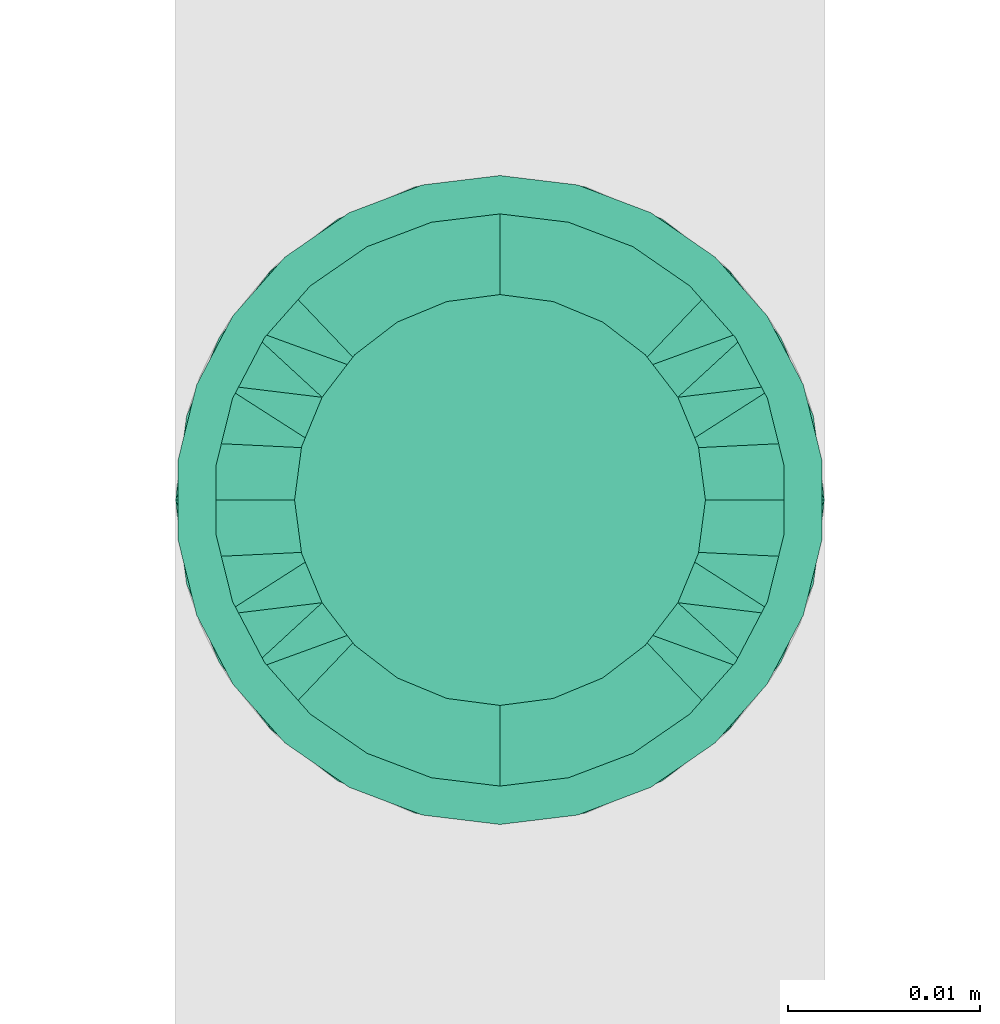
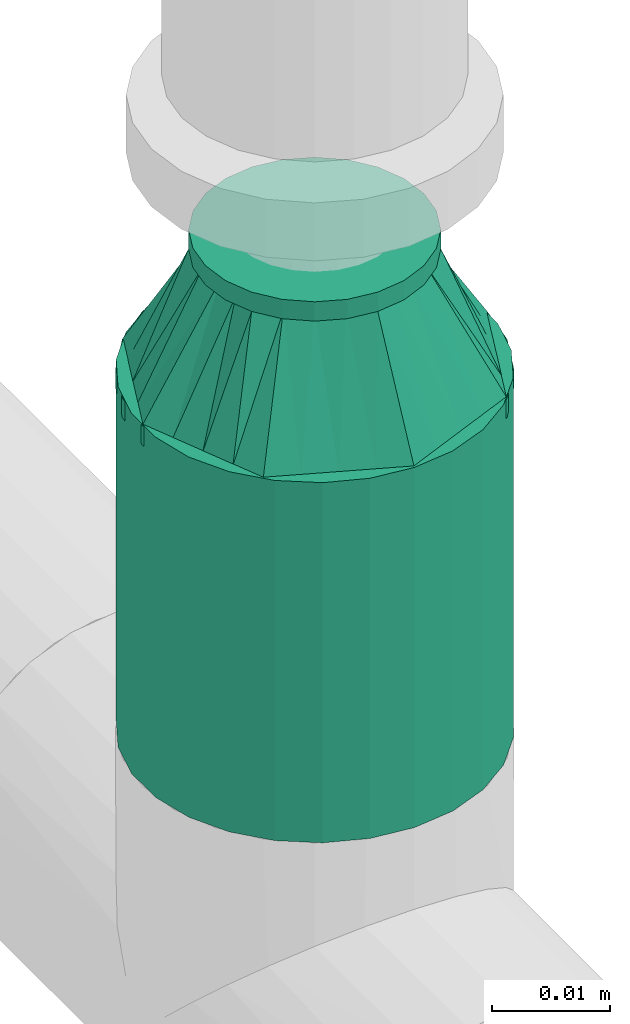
# One storey, part 14 of 31: 1 flow fitting, 1 flow segment.
"""IFC2X3 building model written with IfcOpenShell, lengths in millimetres."""

from ifc_helpers import new_model, entity, si_unit, converted_unit, derived_unit, direction, frame, origin_with_axes, origin_2d_with_axis, place, context, subcontext, project, spatial, hollow_circle, extrude, open_shell, surface_model, source, transform, mapped, type_object, element, save


model = new_model("IFC2X3")

# Units and contexts
model_context = context("Model", 3, precision=0.01, world=frame((0.0, 4.29681676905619e-09, 0.0)), true_north=direction((4.01073788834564e-13, 1.0)))
plan_context = context("Plan", 3, precision=0.01, world=frame((0.0, 4.29681676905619e-09, 0.0)), true_north=direction((4.01073788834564e-13, 1.0)))
body_context = subcontext(model_context, "Body", "Model", "MODEL_VIEW")
ifc_project = project(units=[converted_unit("PLANEANGLEUNIT", "DEGREE", entity("IfcPositiveLengthMeasure", 0.0174532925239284), si_unit("PLANEANGLEUNIT", "RADIAN"), dimensions=[0, 0, 0, 0, 0, 0, 0]), si_unit("AREAUNIT", "SQUARE_METRE"), si_unit("LENGTHUNIT", "METRE", prefix="MILLI"), si_unit("MASSUNIT", "GRAM", prefix="KILO"), si_unit("POWERUNIT", "WATT"), si_unit("PRESSUREUNIT", "PASCAL", prefix="KILO"), si_unit("FORCEUNIT", "NEWTON", prefix="KILO"), si_unit("ELECTRICVOLTAGEUNIT", "VOLT"), si_unit("ELECTRICCURRENTUNIT", "AMPERE"), si_unit("THERMODYNAMICTEMPERATUREUNIT", "DEGREE_CELSIUS"), si_unit("TIMEUNIT", "SECOND"), si_unit("VOLUMEUNIT", "CUBIC_METRE"), derived_unit("LINEARVELOCITYUNIT", [(si_unit("LENGTHUNIT", "METRE"), 1), (si_unit("TIMEUNIT", "SECOND"), -1)]), derived_unit("VOLUMETRICFLOWRATEUNIT", [(si_unit("VOLUMEUNIT", "CUBIC_METRE"), 1), (si_unit("TIMEUNIT", "SECOND"), -1)]), derived_unit("THERMALTRANSMITTANCEUNIT", [(si_unit("POWERUNIT", "WATT"), 1), (si_unit("THERMODYNAMICTEMPERATUREUNIT", "KELVIN"), -1), (si_unit("AREAUNIT", "SQUARE_METRE"), -1)]), derived_unit("SOUNDPRESSUREUNIT", [(si_unit("PRESSUREUNIT", "PASCAL"), 1)])], contexts=[model_context, plan_context])

# Site, building, storey
site_placement = place(None, frame((0.0, -4.29681676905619e-09, 0.0), z_axis=(0.0, 0.0, 1.0), x_axis=(1.0, 0.0, 0.0)))
site = spatial("IfcSite", under=ifc_project, at=site_placement, CompositionType="ELEMENT")
building_placement = place(site_placement, frame((0.0, 4.29681676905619e-09, 0.0), z_axis=(0.0, 0.0, 1.0), x_axis=(1.0, 0.0, 0.0)))
building = spatial("IfcBuilding", under=site, at=building_placement, Name="mc-building", CompositionType="ELEMENT")
storey_placement = place(building_placement, frame((0.0, 0.0, 200300.0), z_axis=(0.0, 0.0, 1.0), x_axis=(1.0, 0.0, 0.0)))
storey = spatial("IfcBuildingStorey", under=building, at=storey_placement, Name="Nivå C", CompositionType="ELEMENT", Elevation=200300.0)

# Flow fitting
pipe_fitting_type = type_object("IfcPipeFittingType", Name="magi_pipe_fe_reducer_centric_short_NOR", PredefinedType="TRANSITION")
shared_shape_1 = source(origin_with_axes(), body_context, "Body", "SurfaceModel", [
    surface_model("IfcShellBasedSurfaceModel", [(14.4, 5.35, -9.26647), (14.4, 0.0, -10.7), (14.4, 2.76936, -10.33541), (14.4, 10.33541, -2.76936), (14.4, 7.56604, -7.56604), (14.4, -10.33541, -2.76936), (14.4, 9.26647, -5.35), (14.4, 0.0, 10.7), (14.4, -5.35, -9.26647), (14.4, -2.76936, -10.33541), (14.4, -7.56604, -7.56604), (14.4, -9.26647, -5.35), (14.4, 10.7, 0.0), (14.4, 10.33541, 2.76936), (14.4, 9.26647, 5.35), (14.4, 7.56604, 7.56604), (14.4, 2.76936, 10.33541), (14.4, 5.35, 9.26647), (14.4, -10.33541, 2.76936), (14.4, -7.56604, 7.56604), (14.4, -9.26647, 5.35), (14.4, -10.7, 0.0), (14.4, -2.76936, 10.33541), (14.4, -5.35, 9.26647), (12.4, 2.76936, 10.33541), (12.4, -10.33541, -2.76936), (12.4, 0.0, 10.7), (12.4, 5.35, 9.26647), (12.4, 7.56604, 7.56604), (12.4, 9.26647, 5.35), (12.4, 10.33541, 2.76936), (12.4, -10.33541, 2.76936), (12.4, -2.76936, 10.33541), (12.4, -7.56604, 7.56604), (12.4, -5.35, 9.26647), (12.4, -9.26647, 5.35), (12.4, -10.7, 0.0), (12.4, 10.33541, -2.76936), (12.4, 5.35, -9.26647), (12.4, 9.26647, -5.35), (12.4, 7.56604, -7.56604), (12.4, 2.76936, -10.33541), (12.4, -9.26647, -5.35), (12.4, -5.35, -9.26647), (12.4, -7.56604, -7.56604), (12.4, 0.0, -10.7), (12.4, -2.76936, -10.33541), (12.4, 10.7, 0.0), (-2.0, 11.9501, 11.9501), (-2.0, 0.0, 16.9), (-2.0, 4.37404, 16.32415), (-2.0, 8.45, 14.63583), (-2.0, 14.63583, 8.45), (-2.0, 16.32415, 4.37404), (-2.0, -16.32415, 4.37404), (-2.0, -8.45, 14.63583), (-2.0, -14.63583, 8.45), (-2.0, -11.9501, 11.9501), (-2.0, -4.37404, 16.32415), (-2.0, -16.32415, -4.37404), (-2.0, -16.9, 0.0), (-2.0, -8.45, -14.63583), (-2.0, 16.32415, -4.37404), (-2.0, 11.9501, -11.9501), (-2.0, 14.63583, -8.45), (-2.0, 8.45, -14.63583), (-2.0, 4.37404, -16.32415), (-2.0, 0.0, -16.9), (-2.0, -11.9501, -11.9501), (-2.0, -14.63583, -8.45), (-2.0, -4.37404, -16.32415), (-2.0, 16.9, 0.0), (0.0, 4.37404, -16.32415), (0.0, 8.45, -14.63583), (0.0, 11.9501, -11.9501), (0.0, 0.0, -16.9), (0.0, 16.32415, -4.37404), (0.0, 16.32415, 4.37404), (0.0, 14.63583, -8.45), (0.0, -8.45, -14.63583), (0.0, -4.37404, -16.32415), (0.0, -11.9501, -11.9501), (0.0, -16.32415, -4.37404), (0.0, -14.63583, -8.45), (0.0, -16.32415, 4.37404), (0.0, 16.9, 0.0), (0.0, 14.63583, 8.45), (0.0, 11.9501, 11.9501), (0.0, 4.37404, 16.32415), (0.0, 8.45, 14.63583), (0.0, 0.0, 16.9), (0.0, -14.63583, 8.45), (0.0, -16.9, 0.0), (0.0, -8.45, 14.63583), (0.0, -11.9501, 11.9501), (0.0, -4.37404, 16.32415), (12.4, 9.3625, -2.31662), (0.0, 14.42505, -5.97505), (0.0, 15.66253, -2.98753), (12.4, -6.6875, -6.94985), (0.0, -13.18758, -8.96258), (0.0, 2.98753, -15.66253), (12.4, 0.0, -9.26647), (12.4, 6.6875, -6.94985), (0.0, 8.96258, -13.18758), (12.4, -9.3625, -2.31662), (0.0, -15.66253, -2.98753), (0.0, -14.42505, -5.97505), (0.0, 5.97505, -14.42505), (0.0, -2.98753, -15.66253), (0.0, -8.96258, -13.18758), (0.0, 13.18758, -8.96258), (12.4, 8.025, -4.63324), (12.4, -2.675, -9.26647), (12.4, 2.675, -9.26647), (0.0, -5.97505, -14.42505), (12.4, -8.025, -4.63324), (12.4, -9.3625, 2.31662), (0.0, -14.42505, 5.97505), (0.0, -15.66253, 2.98753), (12.4, 6.6875, 6.94985), (0.0, 13.18758, 8.96258), (0.0, -2.98753, 15.66253), (12.4, 0.0, 9.26647), (12.4, -6.6875, 6.94985), (0.0, -8.96258, 13.18758), (12.4, 9.3625, 2.31662), (0.0, 15.66253, 2.98753), (0.0, 14.42505, 5.97505), (0.0, -5.97505, 14.42505), (0.0, 2.98753, 15.66253), (0.0, 8.96258, 13.18758), (0.0, -13.18758, 8.96258), (12.4, -8.025, 4.63324), (12.4, 2.675, 9.26647), (12.4, -2.675, 9.26647), (0.0, 5.97505, 14.42505), (12.4, 8.025, 4.63324)], [open_shell([[[0, 1, 2]], [[3, 0, 4]], [[5, 0, 3]], [[3, 4, 6]], [[7, 5, 3]], [[1, 8, 9]], [[1, 0, 8]], [[10, 5, 11]], [[5, 10, 8]], [[0, 5, 8]], [[3, 12, 13]], [[13, 14, 15]], [[13, 15, 16]], [[7, 3, 16]], [[16, 15, 17]], [[7, 18, 5]], [[18, 19, 20]], [[21, 5, 18]], [[19, 22, 23]], [[22, 19, 18]], [[7, 22, 18]], [[13, 16, 3]], [[24, 25, 26]], [[27, 25, 24]], [[28, 29, 30]], [[28, 25, 27]], [[31, 26, 25]], [[32, 33, 34]], [[33, 32, 31]], [[33, 31, 35]], [[32, 26, 31]], [[31, 25, 36]], [[30, 37, 28]], [[25, 28, 37]], [[38, 37, 39]], [[37, 38, 25]], [[38, 39, 40]], [[41, 25, 38]], [[42, 43, 44]], [[43, 42, 25]], [[43, 45, 46]], [[43, 25, 41]], [[41, 45, 43]], [[37, 30, 47]], [[25, 5, 36]], [[42, 11, 25]], [[8, 44, 43]], [[42, 44, 10]], [[9, 43, 46]], [[25, 11, 5]], [[5, 21, 36]], [[9, 8, 43]], [[10, 44, 8]], [[10, 11, 42]], [[1, 9, 46]], [[46, 45, 1]], [[41, 2, 45]], [[38, 0, 41]], [[6, 40, 39]], [[38, 40, 4]], [[3, 39, 37]], [[38, 4, 0]], [[0, 2, 41]], [[12, 3, 37]], [[6, 39, 3]], [[6, 4, 40]], [[47, 12, 37]], [[45, 2, 1]], [[30, 13, 47]], [[29, 14, 30]], [[17, 28, 27]], [[29, 28, 15]], [[16, 27, 24]], [[30, 14, 13]], [[13, 12, 47]], [[16, 17, 27]], [[15, 28, 17]], [[15, 14, 29]], [[7, 16, 24]], [[24, 26, 7]], [[32, 22, 26]], [[34, 23, 32]], [[20, 33, 35]], [[34, 33, 19]], [[18, 35, 31]], [[34, 19, 23]], [[23, 22, 32]], [[21, 18, 31]], [[20, 35, 18]], [[20, 19, 33]], [[36, 21, 31]], [[26, 22, 7]], [[48, 49, 50]], [[48, 50, 51]], [[48, 52, 53]], [[48, 53, 49]], [[49, 53, 54]], [[55, 56, 57]], [[55, 58, 49]], [[56, 55, 49]], [[49, 54, 56]], [[54, 59, 60]], [[54, 53, 61]], [[53, 62, 63]], [[63, 62, 64]], [[63, 65, 66]], [[61, 53, 63]], [[67, 63, 66]], [[59, 68, 69]], [[68, 59, 61]], [[61, 67, 70]], [[59, 54, 61]], [[63, 67, 61]], [[53, 71, 62]], [[72, 73, 74]], [[75, 72, 74]], [[74, 76, 77]], [[76, 74, 78]], [[74, 77, 79]], [[75, 79, 80]], [[75, 74, 79]], [[81, 82, 83]], [[82, 81, 79]], [[79, 84, 82]], [[77, 76, 85]], [[77, 86, 87]], [[77, 87, 88]], [[88, 84, 79]], [[88, 87, 89]], [[84, 88, 90]], [[90, 91, 84]], [[92, 82, 84]], [[91, 93, 94]], [[91, 90, 93]], [[93, 90, 95]], [[79, 77, 88]], [[59, 82, 60]], [[69, 83, 59]], [[79, 68, 61]], [[69, 68, 81]], [[80, 61, 70]], [[59, 83, 82]], [[82, 92, 60]], [[80, 79, 61]], [[81, 68, 79]], [[81, 83, 69]], [[75, 80, 70]], [[70, 67, 75]], [[66, 72, 67]], [[65, 73, 66]], [[78, 63, 64]], [[65, 63, 74]], [[76, 64, 62]], [[65, 74, 73]], [[73, 72, 66]], [[85, 76, 62]], [[78, 64, 76]], [[78, 74, 63]], [[71, 85, 62]], [[67, 72, 75]], [[53, 77, 71]], [[52, 86, 53]], [[89, 48, 51]], [[52, 48, 87]], [[88, 51, 50]], [[53, 86, 77]], [[77, 85, 71]], [[88, 89, 51]], [[87, 48, 89]], [[87, 86, 52]], [[90, 88, 50]], [[50, 49, 90]], [[58, 95, 49]], [[55, 93, 58]], [[91, 57, 56]], [[55, 57, 94]], [[84, 56, 54]], [[55, 94, 93]], [[93, 95, 58]], [[92, 84, 54]], [[91, 56, 84]], [[91, 94, 57]], [[60, 92, 54]], [[49, 95, 90]], [[27, 34, 47]], [[47, 34, 43]], [[43, 38, 47]], [[43, 34, 36]], [[90, 87, 94]], [[92, 94, 87]], [[87, 74, 92]], [[75, 92, 74]], [[81, 92, 75]], [[74, 87, 85]], [[96, 97, 98]], [[81, 99, 100]], [[101, 102, 75]], [[98, 85, 47]], [[74, 103, 104]], [[104, 103, 38]], [[105, 106, 107]], [[38, 108, 104]], [[102, 109, 75]], [[110, 99, 81]], [[47, 96, 98]], [[103, 111, 112]], [[109, 102, 113]], [[36, 92, 106]], [[102, 101, 114]], [[110, 115, 43]], [[96, 112, 97]], [[107, 116, 105]], [[36, 106, 105]], [[113, 115, 109]], [[43, 115, 113]], [[116, 107, 100]], [[108, 38, 114]], [[111, 103, 74]], [[111, 97, 112]], [[99, 110, 43]], [[116, 100, 99]], [[101, 108, 114]], [[117, 118, 119]], [[87, 120, 121]], [[122, 123, 90]], [[119, 92, 36]], [[94, 124, 125]], [[125, 124, 34]], [[126, 127, 128]], [[34, 129, 125]], [[123, 130, 90]], [[131, 120, 87]], [[36, 117, 119]], [[124, 132, 133]], [[130, 123, 134]], [[47, 85, 127]], [[123, 122, 135]], [[131, 136, 27]], [[117, 133, 118]], [[128, 137, 126]], [[47, 127, 126]], [[134, 136, 130]], [[27, 136, 134]], [[137, 128, 121]], [[129, 34, 135]], [[132, 124, 94]], [[132, 118, 133]], [[120, 131, 27]], [[137, 121, 120]], [[122, 129, 135]]])]),
])
flow_fitting_placement = place(storey_placement, frame((608500.0, 400928.19532, 2962.64799999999), z_axis=(-1.0, 0.0, 0.0), x_axis=(0.0, 0.0, 1.0)))
element("IfcFlowFitting", 1, at=flow_fitting_placement, inside=storey, type_object=pipe_fitting_type, Name="magi_pipe_fe_reducer_centric_short_NOR", context=body_context, shape_type="MappedRepresentation", body=[
    mapped(shared_shape_1, transform((0.0, 0.0, 0.0), scale=1.0)),
])

# Flow segment
pipe_segment_type = type_object("IfcPipeSegmentType", Name="Stålrør normaltykke", PredefinedType="RIGIDSEGMENT")
shared_shape_2 = source(origin_with_axes(), body_context, "Body", "SweptSolid", [
    extrude(hollow_circle(Radius=16.9, WallThickness=2.0, at=origin_2d_with_axis()), frame((0.0, 0.0, 0.0), z_axis=(1.0, 0.0, 0.0), x_axis=(0.0, 1.0, 0.0)), (0.0, 0.0, 1.0), 37.3),
])
flow_segment_placement = place(storey_placement, frame((608500.0, 400928.19532, 2925.35000000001), z_axis=(-1.0, 0.0, 0.0), x_axis=(0.0, 0.0, 1.0)))
element("IfcFlowSegment", 2, at=flow_segment_placement, inside=storey, type_object=pipe_segment_type, Name="Stålrør normaltykke", context=body_context, shape_type="MappedRepresentation", body=[
    mapped(shared_shape_2, transform((0.0, 0.0, 0.0), scale=1.0)),
])

save(model, "model.ifc")
